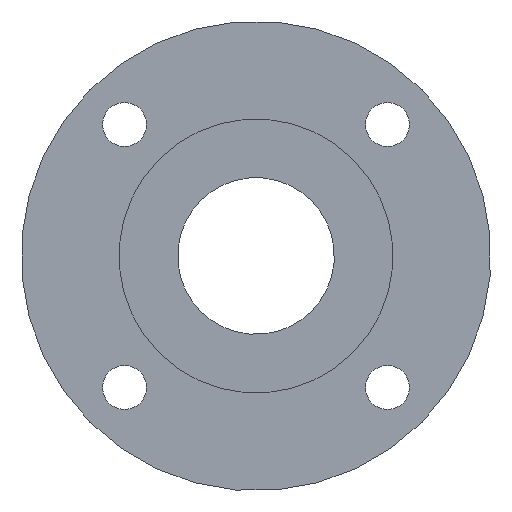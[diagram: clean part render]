
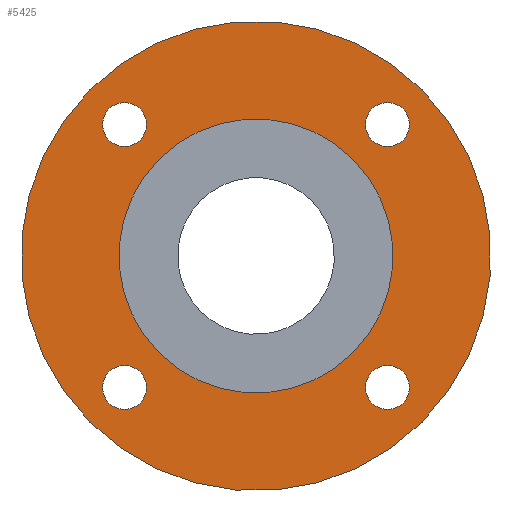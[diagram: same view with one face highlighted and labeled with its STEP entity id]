
A CAD part, left-side view. The second image highlights one B-rep face of the part: STEP entity #5425.
In plain terms, the highlighted planar face has unit normal (-1, 0, 0).
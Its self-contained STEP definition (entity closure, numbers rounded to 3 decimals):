
#111=CIRCLE('',#5771,14.);
#113=CIRCLE('',#5776,24.);
#114=CIRCLE('',#5778,2.25);
#115=CIRCLE('',#5779,2.25);
#116=CIRCLE('',#5780,2.25);
#117=CIRCLE('',#5781,2.25);
#1653=ORIENTED_EDGE('',*,*,#3213,.T.);
#1654=ORIENTED_EDGE('',*,*,#3214,.T.);
#1655=ORIENTED_EDGE('',*,*,#3215,.T.);
#1656=ORIENTED_EDGE('',*,*,#3216,.T.);
#1657=ORIENTED_EDGE('',*,*,#3210,.F.);
#1658=ORIENTED_EDGE('',*,*,#3212,.F.);
#3210=EDGE_CURVE('',#3992,#3992,#111,.F.);
#3212=EDGE_CURVE('',#3994,#3994,#113,.T.);
#3213=EDGE_CURVE('',#3995,#3995,#114,.T.);
#3214=EDGE_CURVE('',#3996,#3996,#115,.T.);
#3215=EDGE_CURVE('',#3997,#3997,#116,.T.);
#3216=EDGE_CURVE('',#3998,#3998,#117,.T.);
#3992=VERTEX_POINT('',#8597);
#3994=VERTEX_POINT('',#8604);
#3995=VERTEX_POINT('',#8607);
#3996=VERTEX_POINT('',#8609);
#3997=VERTEX_POINT('',#8611);
#3998=VERTEX_POINT('',#8613);
#4446=EDGE_LOOP('',(#1653));
#4447=EDGE_LOOP('',(#1654));
#4448=EDGE_LOOP('',(#1655));
#4449=EDGE_LOOP('',(#1656));
#4450=EDGE_LOOP('',(#1657));
#4451=EDGE_LOOP('',(#1658));
#4838=FACE_BOUND('',#4446,.T.);
#4839=FACE_BOUND('',#4447,.T.);
#4840=FACE_BOUND('',#4448,.T.);
#4841=FACE_BOUND('',#4449,.T.);
#4842=FACE_BOUND('',#4450,.T.);
#4843=FACE_BOUND('',#4451,.T.);
#5177=PLANE('',#5777);
#5425=ADVANCED_FACE('',(#4838,#4839,#4840,#4841,#4842,#4843),#5177,.F.);
#5771=AXIS2_PLACEMENT_3D('',#8596,#6271,#6272);
#5776=AXIS2_PLACEMENT_3D('',#8603,#6281,#6282);
#5777=AXIS2_PLACEMENT_3D('',#8605,#6283,#6284);
#5778=AXIS2_PLACEMENT_3D('',#8606,#6285,#6286);
#5779=AXIS2_PLACEMENT_3D('',#8608,#6287,#6288);
#5780=AXIS2_PLACEMENT_3D('',#8610,#6289,#6290);
#5781=AXIS2_PLACEMENT_3D('',#8612,#6291,#6292);
#6271=DIRECTION('',(1.,0.,0.));
#6272=DIRECTION('',(0.,0.707,-0.707));
#6281=DIRECTION('',(1.,0.,0.));
#6282=DIRECTION('',(0.,0.707,-0.707));
#6283=DIRECTION('',(1.,0.,0.));
#6284=DIRECTION('',(0.,0.707,-0.707));
#6285=DIRECTION('',(1.,0.,0.));
#6286=DIRECTION('',(0.,0.707,-0.707));
#6287=DIRECTION('',(1.,0.,0.));
#6288=DIRECTION('',(0.,0.707,-0.707));
#6289=DIRECTION('',(1.,0.,0.));
#6290=DIRECTION('',(0.,0.707,-0.707));
#6291=DIRECTION('',(1.,0.,0.));
#6292=DIRECTION('',(0.,0.707,-0.707));
#8596=CARTESIAN_POINT('',(12.5,0.,0.));
#8597=CARTESIAN_POINT('',(12.5,9.899,-9.899));
#8603=CARTESIAN_POINT('',(12.5,0.,0.));
#8604=CARTESIAN_POINT('',(12.5,16.971,-16.971));
#8605=CARTESIAN_POINT('',(12.5,0.,0.));
#8606=CARTESIAN_POINT('',(12.5,13.435,-13.435));
#8607=CARTESIAN_POINT('',(12.5,15.026,-15.026));
#8608=CARTESIAN_POINT('',(12.5,-13.435,-13.435));
#8609=CARTESIAN_POINT('',(12.5,-11.844,-15.026));
#8610=CARTESIAN_POINT('',(12.5,-13.435,13.435));
#8611=CARTESIAN_POINT('',(12.5,-11.844,11.844));
#8612=CARTESIAN_POINT('',(12.5,13.435,13.435));
#8613=CARTESIAN_POINT('',(12.5,15.026,11.844));
